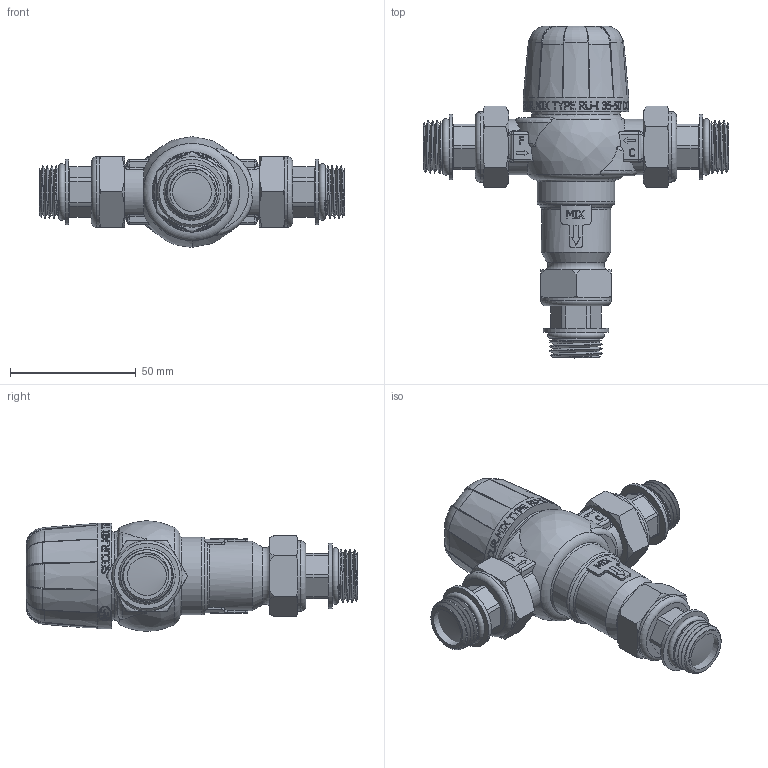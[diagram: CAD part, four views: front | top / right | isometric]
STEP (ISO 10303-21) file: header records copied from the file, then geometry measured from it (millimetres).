
FILE_DESCRIPTION(/* description */ (''),/* implementation_level */ '2;1');
FILE_NAME(/* name */ 'E:\Артём\00000\Работа удаленка\VT.MT10RU.stp',/* time_stamp */ '2020-05-12T14:13:17+03:00',/* author */ ('BeN_GaN'),/* organization */ (''),/* preprocessor_version */ 'ST-DEVELOPER v18',/* originating_system */ 'Autodesk Inventor 2020',/* authorisation */ '');
FILE_SCHEMA (('AUTOMOTIVE_DESIGN { 1 0 10303 214 3 1 1 }'));
Length unit declared in the file: millimetre
Products named in the file (1): VT.MT10RU
Bounding box: 121.5 x 131.99 x 44 mm (x, y, z)
Volume: 141426.8 mm3; surface area: 30652.6 mm2
Topology: 1 solids, 1 shells, 1402 faces, 3727 edges, 2423 vertices
Faces by surface type: plane 535, bspline 534, cylinder 213, torus 73, cone 39, sphere 8
Full cylindrical faces by diameter (mm): 5 x1, 6 x1, 15.5 x3, 17.3 x10, 17.5 x5, 19 x3, 20.9 x6, 26 x3, 27.5 x1, 28 x3, 31 x1, 35 x1, 42 x1
Entity records: 61123 total; most frequent: CARTESIAN_POINT 29801, ORIENTED_EDGE 7454, DIRECTION 4923, EDGE_CURVE 3727, VERTEX_POINT 2423, AXIS2_PLACEMENT_3D 1658, LINE 1607, VECTOR 1607
